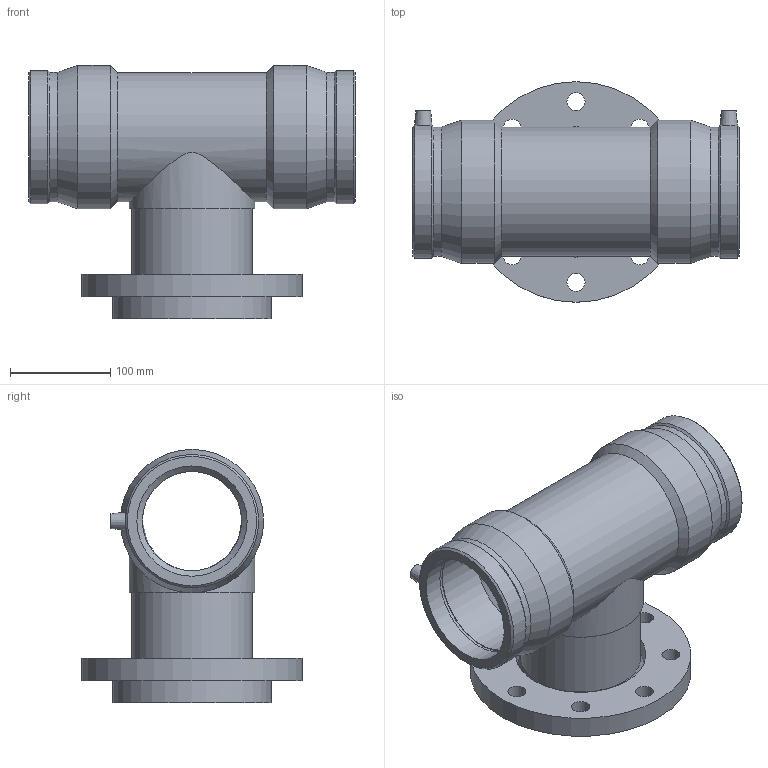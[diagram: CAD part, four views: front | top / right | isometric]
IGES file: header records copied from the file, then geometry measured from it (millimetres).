
Global section: file name: 499404110100.ipt; native system: Autodesk Inventor 2015; preprocessor: unknown; author: KIM; date: 20171106.094449; units: millimetre
Bounding box: 326 x 220 x 252.5 mm (x, y, z)
Volume: 2832718.6 mm3; surface area: 423046.3 mm2
Topology: 1 solids, 1 shells, 66 faces, 155 edges, 100 vertices
Faces by surface type: revolution 25, plane 16, cylinder 13, cone 11, bspline 1
Full cylindrical faces by diameter (mm): 4 x2, 120 x1, 125 x1, 128.7 x1, 129 x2, 143 x2, 158 x1, 220 x1
